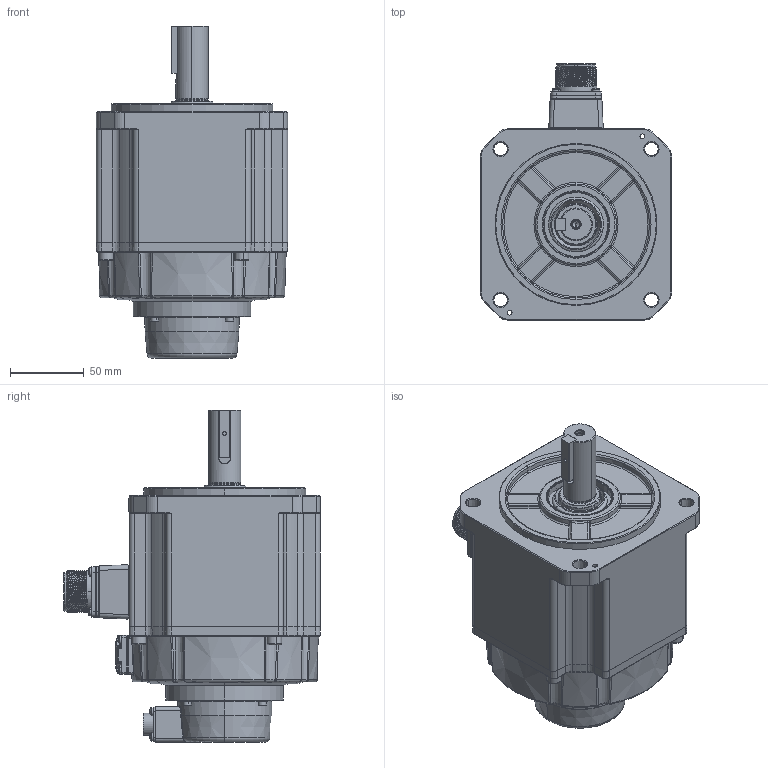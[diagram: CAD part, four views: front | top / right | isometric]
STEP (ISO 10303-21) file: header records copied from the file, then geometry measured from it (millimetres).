
FILE_DESCRIPTION (( 'STEP AP214' ), '1' );
FILE_NAME ('RSA1-M-130-0.85kw-B.STEP', '2024-08-12T02:10:33', ( '' ), ( '' ), 'SwSTEP 2.0', 'SolidWorks 2020', '' );
FILE_SCHEMA (( 'AUTOMOTIVE_DESIGN' ));
Length unit declared in the file: millimetre
Products named in the file (15): 130梓袧綴裔; 惕掅雄薯瑤脣; RSA1-M-130-0.85kw-B; 内六角圆柱头螺钉_M6x20; 130-M-0.85kw儂褲; 4140000005_电机内部编码器线_7x26AWG(0.1m-CMV1-10芯螺纹插座_GACJ3045); す瑩_B8x7x32; 130-惕掅綴傷裔; 130秶雄ん盄揤裔; 130-笢嫦講-粣噤22; ﾊｮﾗﾖｲﾛﾅﾌﾍｷﾗﾔｼｷﾂﾝｶ､_M3x8; 内六角圆柱头和平垫圈组合螺钉_M3x16; 130雄薯瑤脣價釱; 坋趼羞攫芛蹟隊_M3x30; 130-蚐猾_TC30x45x8(NBR)
Assembly tree (30 placements, depth 2):
  RSA1-M-130-0.85kw-B
    130-M-0.85kw儂褲
    130雄薯瑤脣價釱
    130-笢嫦講-粣噤22
    惕掅雄薯瑤脣
    130-蚐猾_TC30x45x8(NBR)
    130-惕掅綴傷裔
    130梓袧綴裔
    4140000005_电机内部编码器线_7x26AWG(0.1m-CMV1-10芯螺纹插座_GACJ3045)
    内六角圆柱头螺钉_M6x20  x4
    内六角圆柱头和平垫圈组合螺钉_M3x16  x4
    坋趼羞攫芛蹟隊_M3x30  x8
    ﾊｮﾗﾖｲﾛﾅﾌﾍｷﾗﾔｼｷﾂﾝｶ､_M3x8  x4
    す瑩_B8x7x32
    130秶雄ん盄揤裔
Bounding box: 130 x 174.4 x 225.6 mm (x, y, z)
Volume: 1720518.1 mm3; surface area: 206797.5 mm2
Topology: 34 solids, 36 shells, 3151 faces, 7787 edges, 4862 vertices
Faces by surface type: plane 1462, cylinder 754, cone 320, torus 299, bspline 240, sphere 76
Entity records: 109009 total; most frequent: CARTESIAN_POINT 28597, ORIENTED_EDGE 13370, DIRECTION 13341, EDGE_CURVE 6685, AXIS2_PLACEMENT_3D 4801, VERTEX_POINT 4188, VECTOR 3739, LINE 3739
